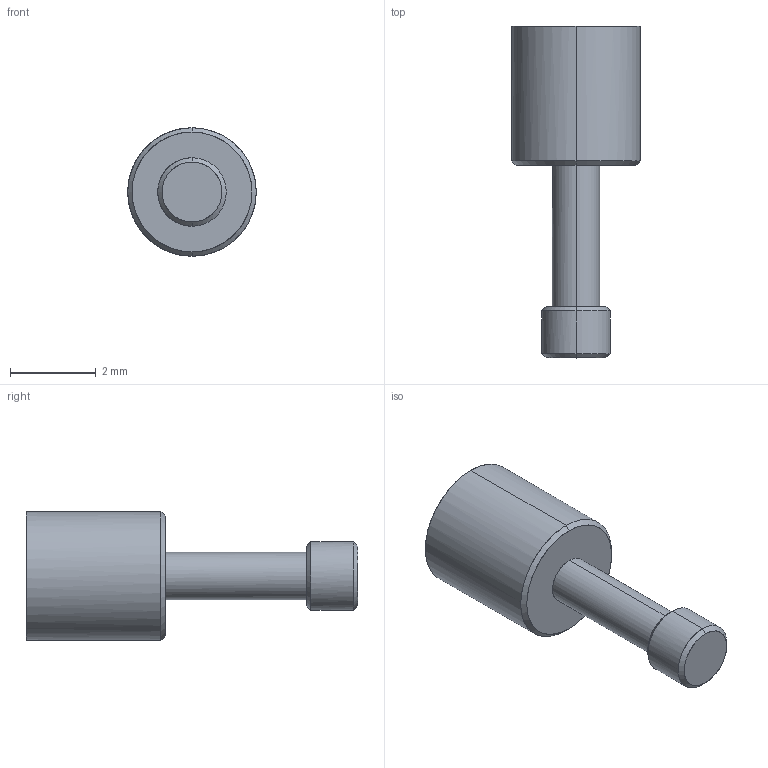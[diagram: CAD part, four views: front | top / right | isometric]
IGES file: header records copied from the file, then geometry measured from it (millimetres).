
Start section: START RECORD GO HERE.
Global section: file name: ia3075sf.igs; native system: DASSAULT SYSTEMES CATIA V5 R20 - www.3ds.com; preprocessor: CATIA Version 5 Release 20 ; author: Utente; organization: NB04-ASUS; date: 20201108.074524; units: millimetre
Bounding box: 3 x 7.75 x 3 mm (x, y, z)
Surface area: 64.9 mm2 (no closed solid volume)
Topology: 0 solids, 0 shells, 25 faces, 110 edges, 108 vertices
Faces by surface type: revolution 14, plane 11
